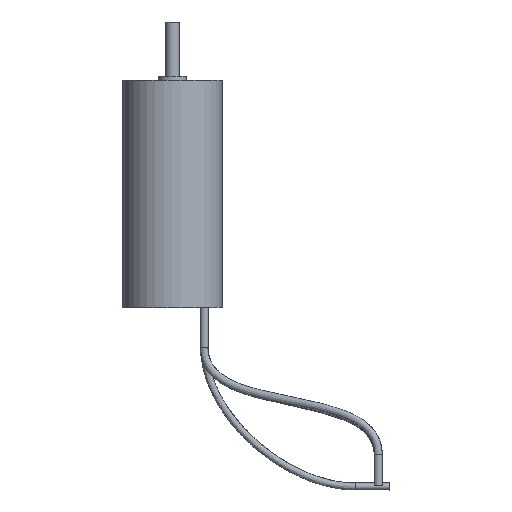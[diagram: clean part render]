
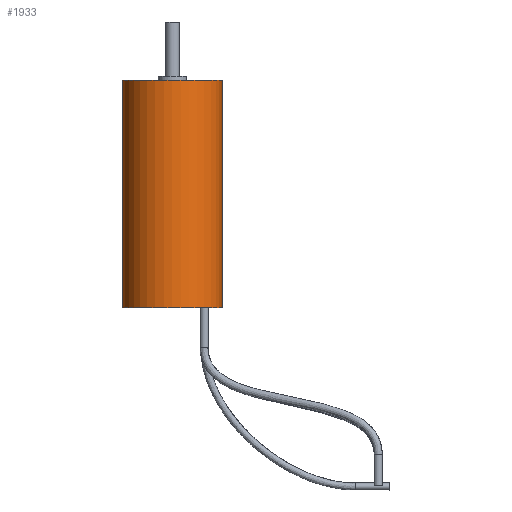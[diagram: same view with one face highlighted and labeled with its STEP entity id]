
A CAD part, top view. The second image highlights one B-rep face of the part: STEP entity #1933.
In plain terms, the highlighted cylindrical face has radius 10.98 mm (diameter 21.96 mm), a partial arc.
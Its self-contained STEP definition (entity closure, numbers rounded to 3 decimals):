
#119=CARTESIAN_POINT('',(0.,-13.494,0.));
#120=DIRECTION('',(0.,1.,0.));
#121=DIRECTION('',(-1.,0.,0.));
#122=AXIS2_PLACEMENT_3D('',#119,#120,#121);
#320=DIRECTION('',(0.,-1.,0.));
#321=VECTOR('',#320,50.1);
#322=CARTESIAN_POINT('',(-10.98,36.606,0.));
#323=LINE('',#322,#321);
#324=DIRECTION('',(0.,-1.,0.));
#325=VECTOR('',#324,50.1);
#326=CARTESIAN_POINT('',(10.98,36.606,0.));
#327=LINE('',#326,#325);
#328=CARTESIAN_POINT('',(0.,36.606,0.));
#329=DIRECTION('',(0.,-1.,0.));
#330=DIRECTION('',(1.,0.,0.));
#331=AXIS2_PLACEMENT_3D('',#328,#329,#330);
#1587=CARTESIAN_POINT('',(10.98,-13.494,0.));
#1588=CARTESIAN_POINT('',(-10.98,-13.494,0.));
#1589=VERTEX_POINT('',#1587);
#1590=VERTEX_POINT('',#1588);
#1646=CARTESIAN_POINT('',(10.98,36.606,0.));
#1647=VERTEX_POINT('',#1646);
#1648=CARTESIAN_POINT('',(-10.98,36.606,0.));
#1649=VERTEX_POINT('',#1648);
#1921=CARTESIAN_POINT('',(0.,55.701,0.));
#1922=DIRECTION('',(0.,-1.,0.));
#1923=DIRECTION('',(-1.,0.,0.));
#1924=AXIS2_PLACEMENT_3D('',#1921,#1922,#1923);
#1925=CYLINDRICAL_SURFACE('',#1924,10.98);
#1926=ORIENTED_EDGE('',*,*,#1911,.T.);
#1927=ORIENTED_EDGE('',*,*,#1829,.F.);
#1928=ORIENTED_EDGE('',*,*,#1915,.F.);
#1930=ORIENTED_EDGE('',*,*,#1929,.F.);
#1931=EDGE_LOOP('',(#1926,#1927,#1928,#1930));
#1932=FACE_OUTER_BOUND('',#1931,.F.);
#1933=ADVANCED_FACE('',(#1932),#1925,.T.);
#123=CIRCLE('',#122,10.98);
#332=CIRCLE('',#331,10.98);
#1829=EDGE_CURVE('',#1590,#1589,#123,.T.);
#1911=EDGE_CURVE('',#1647,#1589,#327,.T.);
#1915=EDGE_CURVE('',#1649,#1590,#323,.T.);
#1929=EDGE_CURVE('',#1647,#1649,#332,.T.);
